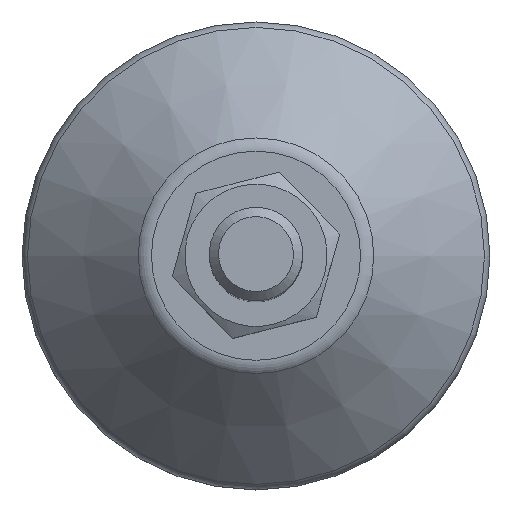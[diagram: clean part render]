
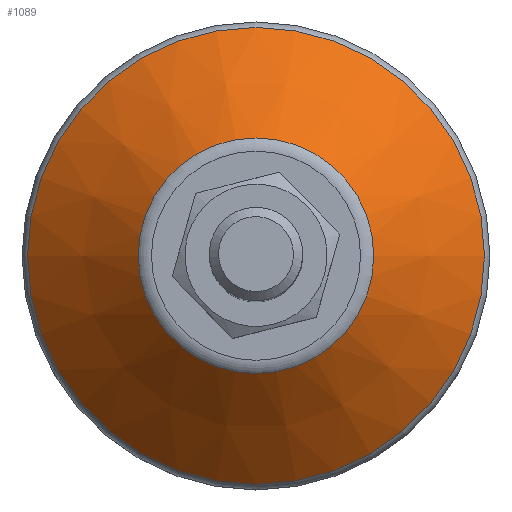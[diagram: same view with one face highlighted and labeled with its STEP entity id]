
A CAD part, top view. The second image highlights one B-rep face of the part: STEP entity #1089.
In plain terms, the highlighted conical face has half-angle 45 degrees and reference radius 18.5 mm.
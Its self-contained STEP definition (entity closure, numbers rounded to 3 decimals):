
#1089=ADVANCED_FACE('',(#2583,#2585),#2587,.T.);
#2583=FACE_BOUND('',#2584,.T.);
#2584=EDGE_LOOP('',(#3760,#3761));
#2585=FACE_BOUND('',#2586,.T.);
#2586=EDGE_LOOP('',(#3762,#3763));
#2587=CONICAL_SURFACE('',#2588,18.5,0.785);
#2588=AXIS2_PLACEMENT_3D('',#2589,#2590,#2591);
#2589=CARTESIAN_POINT('',(0.,0.,11.5));
#2590=DIRECTION('',(0.,0.,-1.));
#2591=DIRECTION('',(1.,0.,0.));
#3760=ORIENTED_EDGE('',*,*,#4475,.T.);
#3761=ORIENTED_EDGE('',*,*,#4474,.T.);
#3762=ORIENTED_EDGE('',*,*,#4478,.F.);
#3763=ORIENTED_EDGE('',*,*,#4479,.F.);
#4474=EDGE_CURVE('',#5183,#5184,#5185,.T.);
#4475=EDGE_CURVE('',#5184,#5183,#5186,.T.);
#4478=EDGE_CURVE('',#5191,#5192,#5193,.T.);
#4479=EDGE_CURVE('',#5192,#5191,#5194,.T.);
#5183=VERTEX_POINT('',#7824);
#5184=VERTEX_POINT('',#7825);
#5185=CIRCLE('',#7826,24.414);
#5186=CIRCLE('',#7830,24.414);
#5191=VERTEX_POINT('',#7844);
#5192=VERTEX_POINT('',#7845);
#5193=CIRCLE('',#7846,12.586);
#5194=CIRCLE('',#7850,12.586);
#7824=CARTESIAN_POINT('',(-24.414,0.,5.586));
#7825=CARTESIAN_POINT('',(24.414,0.,5.586));
#7826=AXIS2_PLACEMENT_3D('',#7827,#7828,#7829);
#7827=CARTESIAN_POINT('',(0.,0.,5.586));
#7828=DIRECTION('',(0.,0.,1.));
#7829=DIRECTION('',(-1.,0.,0.));
#7830=AXIS2_PLACEMENT_3D('',#7831,#7832,#7833);
#7831=CARTESIAN_POINT('',(0.,0.,5.586));
#7832=DIRECTION('',(0.,0.,1.));
#7833=DIRECTION('',(1.,0.,0.));
#7844=CARTESIAN_POINT('',(-12.586,0.,17.414));
#7845=CARTESIAN_POINT('',(12.586,0.,17.414));
#7846=AXIS2_PLACEMENT_3D('',#7847,#7848,#7849);
#7847=CARTESIAN_POINT('',(0.,0.,17.414));
#7848=DIRECTION('',(0.,0.,1.));
#7849=DIRECTION('',(-1.,0.,0.));
#7850=AXIS2_PLACEMENT_3D('',#7851,#7852,#7853);
#7851=CARTESIAN_POINT('',(0.,0.,17.414));
#7852=DIRECTION('',(0.,0.,1.));
#7853=DIRECTION('',(1.,0.,0.));
